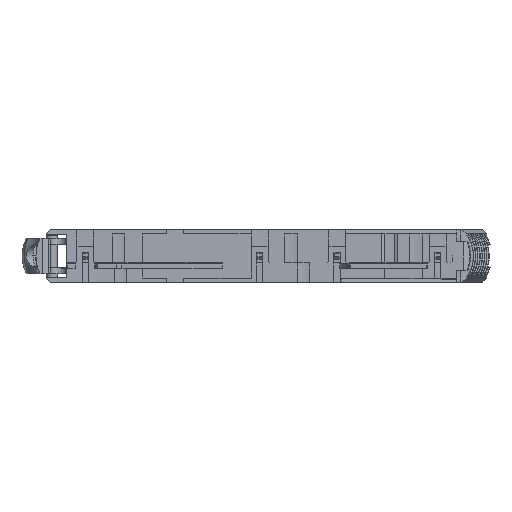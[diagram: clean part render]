
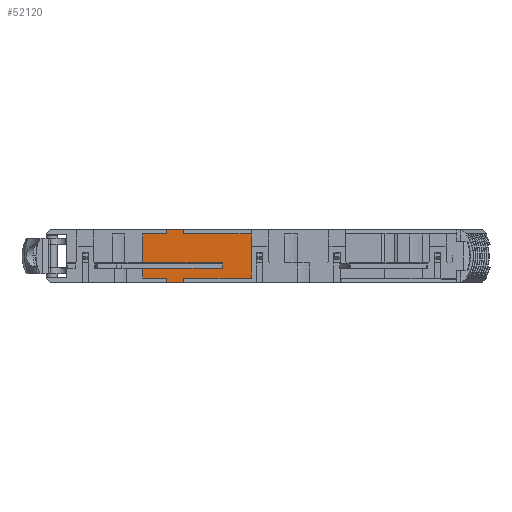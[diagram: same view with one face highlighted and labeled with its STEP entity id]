
A CAD part, front view. The second image highlights one B-rep face of the part: STEP entity #52120.
In plain terms, the highlighted planar face has unit normal (0, -1, 0).
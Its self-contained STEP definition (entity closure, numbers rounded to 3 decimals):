
#256=DIRECTION('',(-1.,0.,0.));
#257=VECTOR('',#256,4.);
#258=CARTESIAN_POINT('',(27.95,2.,0.));
#259=LINE('',#258,#257);
#536=DIRECTION('',(-1.,0.,0.));
#537=VECTOR('',#536,16.1);
#538=CARTESIAN_POINT('',(44.05,2.,-11.5));
#539=LINE('',#538,#537);
#543=DIRECTION('',(0.,0.,1.));
#544=VECTOR('',#543,1.);
#545=CARTESIAN_POINT('',(23.95,2.,-12.5));
#546=LINE('',#545,#544);
#550=DIRECTION('',(-1.,0.,0.));
#551=VECTOR('',#550,5.8);
#552=CARTESIAN_POINT('',(23.95,2.,-11.5));
#553=LINE('',#552,#551);
#557=DIRECTION('',(0.,0.,1.));
#558=VECTOR('',#557,2.35);
#559=CARTESIAN_POINT('',(18.15,2.,-11.5));
#560=LINE('',#559,#558);
#564=DIRECTION('',(0.017,0.,1.));
#565=VECTOR('',#564,1.25);
#566=CARTESIAN_POINT('',(37.137,2.,-9.15));
#567=LINE('',#566,#565);
#571=DIRECTION('',(-1.,0.,0.));
#572=VECTOR('',#571,19.009);
#573=CARTESIAN_POINT('',(37.159,2.,-7.9));
#574=LINE('',#573,#572);
#578=DIRECTION('',(0.,0.,1.));
#579=VECTOR('',#578,6.9);
#580=CARTESIAN_POINT('',(18.15,2.,-7.9));
#581=LINE('',#580,#579);
#585=DIRECTION('',(0.,0.,-1.));
#586=VECTOR('',#585,1.);
#587=CARTESIAN_POINT('',(27.95,2.,0.));
#588=LINE('',#587,#586);
#627=DIRECTION('',(0.,0.,1.));
#628=VECTOR('',#627,10.5);
#629=CARTESIAN_POINT('',(44.05,2.,-11.5));
#630=LINE('',#629,#628);
#683=DIRECTION('',(-1.,0.,0.));
#684=VECTOR('',#683,16.1);
#685=CARTESIAN_POINT('',(44.05,2.,-1.));
#686=LINE('',#685,#684);
#4064=DIRECTION('',(-1.,0.,0.));
#4065=VECTOR('',#4064,18.987);
#4066=CARTESIAN_POINT('',(37.137,2.,-9.15));
#4067=LINE('',#4066,#4065);
#29821=DIRECTION('',(1.,0.,0.));
#29822=VECTOR('',#29821,4.);
#29823=CARTESIAN_POINT('',(23.95,2.,-12.5));
#29824=LINE('',#29823,#29822);
#30340=DIRECTION('',(0.,0.,1.));
#30341=VECTOR('',#30340,1.);
#30342=CARTESIAN_POINT('',(27.95,2.,-12.5));
#30343=LINE('',#30342,#30341);
#45185=DIRECTION('',(0.,0.,-1.));
#45186=VECTOR('',#45185,1.);
#45187=CARTESIAN_POINT('',(23.95,2.,0.));
#45188=LINE('',#45187,#45186);
#45206=DIRECTION('',(-1.,0.,0.));
#45207=VECTOR('',#45206,5.8);
#45208=CARTESIAN_POINT('',(23.95,2.,-1.));
#45209=LINE('',#45208,#45207);
#45347=CARTESIAN_POINT('',(27.95,2.,0.));
#45348=VERTEX_POINT('',#45347);
#45349=CARTESIAN_POINT('',(23.95,2.,0.));
#45350=VERTEX_POINT('',#45349);
#46474=CARTESIAN_POINT('',(23.95,2.,-1.));
#46476=VERTEX_POINT('',#46474);
#46478=CARTESIAN_POINT('',(18.15,2.,-1.));
#46479=VERTEX_POINT('',#46478);
#46486=CARTESIAN_POINT('',(44.05,2.,-1.));
#46487=VERTEX_POINT('',#46486);
#46488=CARTESIAN_POINT('',(27.95,2.,-1.));
#46489=VERTEX_POINT('',#46488);
#46539=CARTESIAN_POINT('',(18.15,2.,-7.9));
#46540=VERTEX_POINT('',#46539);
#49016=CARTESIAN_POINT('',(37.137,2.,-9.15));
#49017=VERTEX_POINT('',#49016);
#49018=CARTESIAN_POINT('',(18.15,2.,-9.15));
#49019=VERTEX_POINT('',#49018);
#49320=CARTESIAN_POINT('',(18.15,2.,-11.5));
#49321=VERTEX_POINT('',#49320);
#49322=CARTESIAN_POINT('',(23.95,2.,-11.5));
#49323=VERTEX_POINT('',#49322);
#49324=CARTESIAN_POINT('',(44.05,2.,-11.5));
#49325=CARTESIAN_POINT('',(27.95,2.,-11.5));
#49326=VERTEX_POINT('',#49324);
#49327=VERTEX_POINT('',#49325);
#49881=CARTESIAN_POINT('',(23.95,2.,-12.5));
#49882=VERTEX_POINT('',#49881);
#49883=CARTESIAN_POINT('',(27.95,2.,-12.5));
#49884=VERTEX_POINT('',#49883);
#51238=CARTESIAN_POINT('',(37.159,2.,-7.9));
#51240=VERTEX_POINT('',#51238);
#52084=CARTESIAN_POINT('',(18.15,2.,0.));
#52085=DIRECTION('',(0.,-1.,0.));
#52086=DIRECTION('',(1.,0.,0.));
#52087=AXIS2_PLACEMENT_3D('',#52084,#52085,#52086);
#52088=PLANE('',#52087);
#52090=ORIENTED_EDGE('',*,*,#52089,.F.);
#52092=ORIENTED_EDGE('',*,*,#52091,.T.);
#52094=ORIENTED_EDGE('',*,*,#52093,.F.);
#52096=ORIENTED_EDGE('',*,*,#52095,.F.);
#52098=ORIENTED_EDGE('',*,*,#52097,.T.);
#52100=ORIENTED_EDGE('',*,*,#52099,.T.);
#52102=ORIENTED_EDGE('',*,*,#52101,.T.);
#52104=ORIENTED_EDGE('',*,*,#52103,.F.);
#52105=ORIENTED_EDGE('',*,*,#52075,.T.);
#52106=ORIENTED_EDGE('',*,*,#52064,.T.);
#52108=ORIENTED_EDGE('',*,*,#52107,.T.);
#52110=ORIENTED_EDGE('',*,*,#52109,.F.);
#52112=ORIENTED_EDGE('',*,*,#52111,.F.);
#52113=ORIENTED_EDGE('',*,*,#51890,.F.);
#52115=ORIENTED_EDGE('',*,*,#52114,.T.);
#52117=ORIENTED_EDGE('',*,*,#52116,.F.);
#52118=EDGE_LOOP('',(#52090,#52092,#52094,#52096,#52098,#52100,#52102,#52104,
#52105,#52106,#52108,#52110,#52112,#52113,#52115,#52117));
#52119=FACE_OUTER_BOUND('',#52118,.F.);
#51890=EDGE_CURVE('',#45348,#45350,#259,.T.);
#52064=EDGE_CURVE('',#51240,#46540,#574,.T.);
#52075=EDGE_CURVE('',#49017,#51240,#567,.T.);
#52089=EDGE_CURVE('',#49326,#46487,#630,.T.);
#52091=EDGE_CURVE('',#49326,#49327,#539,.T.);
#52093=EDGE_CURVE('',#49884,#49327,#30343,.T.);
#52095=EDGE_CURVE('',#49882,#49884,#29824,.T.);
#52097=EDGE_CURVE('',#49882,#49323,#546,.T.);
#52099=EDGE_CURVE('',#49323,#49321,#553,.T.);
#52101=EDGE_CURVE('',#49321,#49019,#560,.T.);
#52103=EDGE_CURVE('',#49017,#49019,#4067,.T.);
#52107=EDGE_CURVE('',#46540,#46479,#581,.T.);
#52109=EDGE_CURVE('',#46476,#46479,#45209,.T.);
#52111=EDGE_CURVE('',#45350,#46476,#45188,.T.);
#52114=EDGE_CURVE('',#45348,#46489,#588,.T.);
#52116=EDGE_CURVE('',#46487,#46489,#686,.T.);
#52120=ADVANCED_FACE('',(#52119),#52088,.T.);
